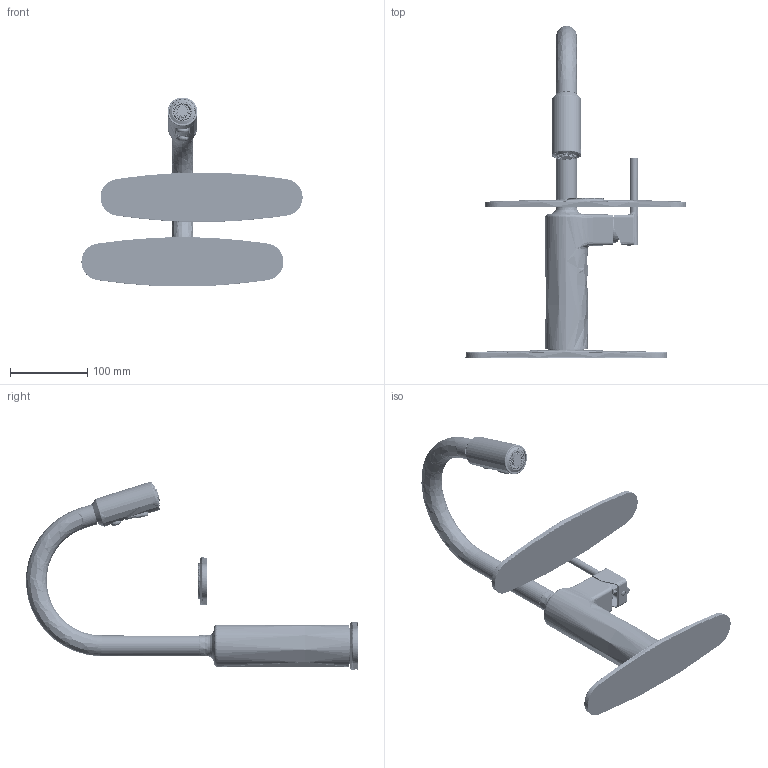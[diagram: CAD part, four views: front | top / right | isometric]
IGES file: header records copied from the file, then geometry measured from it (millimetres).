
Start section: SolidWorks IGES file using analytic representation for surfaces
Global section: file name: W:\mzhang7\7199\87463series\sku_87463series_igs.IGS; native system: SolidWorks 2023; preprocessor: SolidWorks 2023; author: mzhang7; date: 250304.171112; units: inch
Bounding box: 286.84 x 430.56 x 245.12 mm (x, y, z)
Volume: 283606.4 mm3; surface area: 342099.9 mm2
Topology: 11 solids, 22 shells, 6708 faces, 17809 edges, 10449 vertices
Faces by surface type: revolution 3835, bspline 1789, plane 1084
